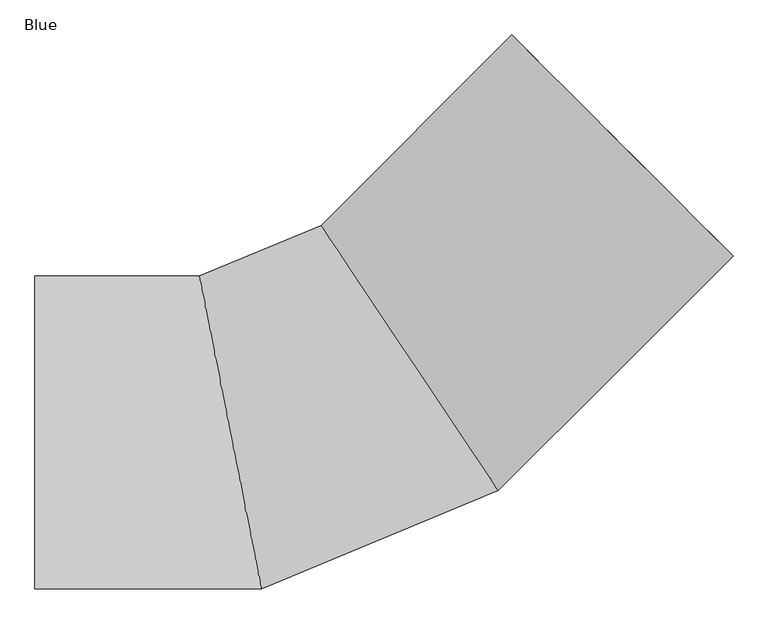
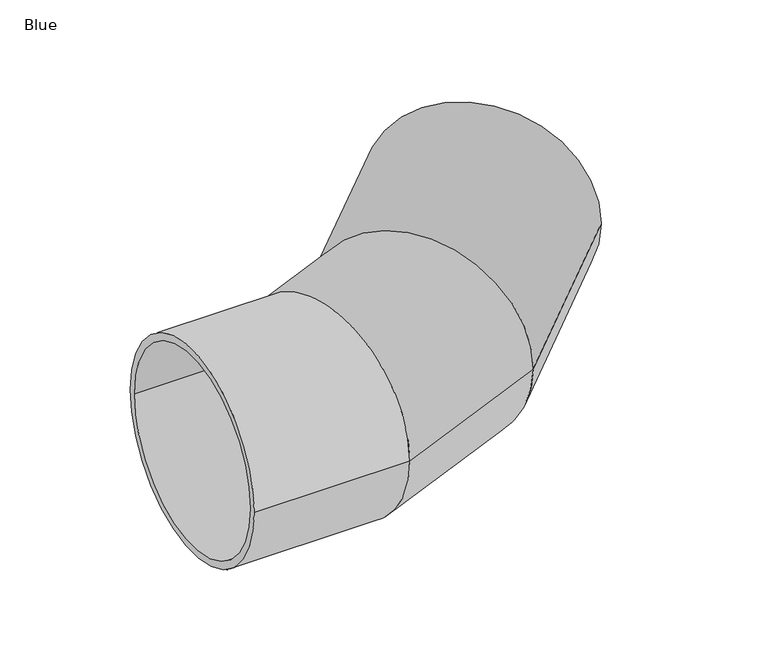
"""IFC4 building model written with IfcOpenShell, lengths in millimetres: pipe fitting geometry, AWADUKT PP SN10 SBend : Blue."""

from ifc_helpers import new_model, si_unit, frame, origin, place, context, project, spatial, polyline, circle_curve, ellipse_curve, source, transform, mapped, element, save
from ifc_brep_helpers import plane_surface, cylinder_surface, revolved_surface, advanced_brep


def blue_0398ec3c(model_context):
    return source(origin(), model_context, "Body", "AdvancedBrep", [
        advanced_brep(
        [(281.4284989, 634.9818895, 0.0), (634.9818895, 281.4284989, 0.0), (293.5200249, 622.8903635, 0.0), (622.8903635, 293.5200249, 0.0), (-13.2953884, 316.0749503, 0.0), (250.5591165, -78.8112222, 0.0), (-22.9817603, 330.5716303, 0.0), (260.2454884, -93.3079022, 0.0), (-214.0974814, 232.9, 0.0), (-121.4441007, -232.9, 0.0), (-217.4988829, 250.0, 0.0), (-118.0426992, -250.0, 0.0), (-480.0, 250.0, 0.0), (-480.0, -250.0, 0.0), (-480.0, 232.9, 0.0), (-480.0, -232.9, 0.0)],
        [
            (0, 1, circle_curve(frame((458.2051942, 458.2051942, 0.0), z_axis=(0.7071067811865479, 0.7071067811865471, 0.0), x_axis=(0.7071067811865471, -0.7071067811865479, 0.0)), 250.0)),
            (1, 0, circle_curve(frame((458.2051942, 458.2051942, 0.0), z_axis=(0.7071067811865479, 0.7071067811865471, 0.0), x_axis=(0.7071067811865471, -0.7071067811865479, 0.0)), 250.0)),
            (2, 3, circle_curve(frame((458.2051942, 458.2051942, 0.0), z_axis=(-0.7071067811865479, -0.7071067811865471, 0.0), x_axis=(0.7071067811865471, -0.7071067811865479, 0.0)), 232.9)),
            (3, 2, circle_curve(frame((458.2051942, 458.2051942, 0.0), z_axis=(-0.7071067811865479, -0.7071067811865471, 0.0), x_axis=(0.7071067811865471, -0.7071067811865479, 0.0)), 232.9)),
            (2, 4),
            (4, 5, ellipse_curve(frame((118.631864, 118.631864, 0.0), z_axis=(-0.8314696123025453, -0.5555702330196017, 0.0), x_axis=(0.5555702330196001, -0.8314696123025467, 0.0)), 237.4627807, 232.9)),
            (5, 3),
            (5, 4, ellipse_curve(frame((118.631864, 118.631864, 0.0), z_axis=(-0.8314696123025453, -0.5555702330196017, 0.0), x_axis=(0.5555702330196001, -0.8314696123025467, 0.0)), 237.4627807, 232.9)),
            (0, 6),
            (6, 7, ellipse_curve(frame((118.631864, 118.631864, 0.0), z_axis=(0.8314696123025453, 0.5555702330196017, 0.0), x_axis=(-0.5555702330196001, 0.8314696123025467, 0.0)), 254.8977896, 250.0)),
            (7, 1),
            (7, 6, ellipse_curve(frame((118.631864, 118.631864, 0.0), z_axis=(0.8314696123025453, 0.5555702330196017, 0.0), x_axis=(-0.5555702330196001, 0.8314696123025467, 0.0)), 254.8977896, 250.0)),
            (4, 8),
            (8, 9, ellipse_curve(frame((-167.770791, 0.0, 0.0), z_axis=(-0.9807852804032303, -0.19509032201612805, 0.0), x_axis=(0.19509032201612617, -0.9807852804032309, 0.0)), 237.4627807, 232.9)),
            (9, 5),
            (9, 8, ellipse_curve(frame((-167.770791, 0.0, 0.0), z_axis=(-0.9807852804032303, -0.19509032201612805, 0.0), x_axis=(0.19509032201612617, -0.9807852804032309, 0.0)), 237.4627807, 232.9)),
            (6, 10),
            (10, 11, ellipse_curve(frame((-167.770791, 0.0, 0.0), z_axis=(0.9807852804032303, 0.19509032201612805, 0.0), x_axis=(-0.19509032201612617, 0.9807852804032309, 0.0)), 254.8977896, 250.0)),
            (11, 7),
            (11, 10, ellipse_curve(frame((-167.770791, 0.0, 0.0), z_axis=(0.9807852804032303, 0.19509032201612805, 0.0), x_axis=(-0.19509032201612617, 0.9807852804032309, 0.0)), 254.8977896, 250.0)),
            (12, 13, circle_curve(frame((-480.0, 0.0, 0.0), z_axis=(-1.0, 0.0, 0.0), x_axis=(0.0, -1.0, 0.0)), 250.0)),
            (13, 12, circle_curve(frame((-480.0, 0.0, 0.0), z_axis=(-1.0, 0.0, 0.0), x_axis=(0.0, -1.0, 0.0)), 250.0)),
            (14, 15, circle_curve(frame((-480.0, 0.0, 0.0), z_axis=(1.0, 0.0, 0.0), x_axis=(0.0, -1.0, 0.0)), 232.9)),
            (15, 14, circle_curve(frame((-480.0, 0.0, 0.0), z_axis=(1.0, 0.0, 0.0), x_axis=(0.0, -1.0, 0.0)), 232.9)),
            (8, 14),
            (15, 9),
            (10, 12),
            (13, 11),
        ],
        [
            plane_surface(frame((458.2051942, 458.2051942, 0.0), z_axis=(0.7071067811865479, 0.7071067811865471, 0.0), x_axis=(0.0, 0.0, 1.0))),
            revolved_surface(polyline([(250.55911643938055, -78.8112222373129, 0.0), (622.890363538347, 293.5200248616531, 0.0)]), (458.2051942, 458.2051942, 0.0), (-0.7071067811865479, -0.7071067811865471, 0.0)),
            cylinder_surface(frame((458.2051942, 458.2051942, 0.0), z_axis=(0.7071067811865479, 0.7071067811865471, 0.0), x_axis=(0.7071067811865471, -0.7071067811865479, 0.0)), 250.0),
            revolved_surface(polyline([(-121.4441006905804, -232.90000002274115, 0.0), (250.55911650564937, -78.81122221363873, 0.0)]), (118.631864, 118.631864, 0.0), (-0.923879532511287, -0.3826834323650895, 0.0)),
            cylinder_surface(frame((118.631864, 118.631864, 0.0), z_axis=(0.923879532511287, 0.3826834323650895, 0.0), x_axis=(0.3826834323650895, -0.923879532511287, 0.0)), 250.0),
            plane_surface(frame((-480.0, 0.0, 0.0), z_axis=(-1.0, 0.0, 0.0), x_axis=(0.0, 0.0, 1.0))),
            revolved_surface(polyline([(-480.0, -232.9, 0.0), (-121.44410064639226, -232.9, 0.0)]), (-167.770791, 0.0, 0.0), (-1.0, 0.0, 0.0)),
            cylinder_surface(frame((-167.770791, 0.0, 0.0), z_axis=(1.0, 0.0, 0.0), x_axis=(0.0, -1.0, 0.0)), 250.0),
        ],
        [
            (0, [[1, 2], [3, 4]]),
            (1, [[-3, 5, 6, 7]]),
            (1, [[-4, -7, 8, -5]]),
            (2, [[-1, 9, 10, 11]]),
            (2, [[-2, -11, 12, -9]]),
            (3, [[-6, 13, 14, 15]]),
            (3, [[-8, -15, 16, -13]]),
            (4, [[-10, 17, 18, 19]]),
            (4, [[-12, -19, 20, -17]]),
            (5, [[21, 22], [23, 24]]),
            (6, [[-14, 25, -24, 26]]),
            (6, [[-16, -26, -23, -25]]),
            (7, [[-18, 27, -22, 28]]),
            (7, [[-20, -28, -21, -27]]),
        ],
    ),
    ])


if __name__ == "__main__":
    model = new_model("IFC4")
    model_context = context("Model", 3, world=origin())
    ifc_project = project(units=[si_unit("LENGTHUNIT", "METRE", prefix="MILLI")], contexts=[model_context])
    site = spatial("IfcSite", under=ifc_project)
    building = spatial("IfcBuilding", under=site)
    placement = place(None, origin())
    blue_shape = blue_0398ec3c(model_context)
    element("IfcPipeFitting", 1, ObjectType="AWADUKT PP SN10 SBend : Blue", at=placement, inside=building, context=model_context, shape_type="MappedRepresentation", body=[
        mapped(blue_shape, transform((0.0, 0.0, 0.0), x_axis=(1.0, 0.0, 0.0), y_axis=(0.0, 1.0, 0.0), z_axis=(0.0, 0.0, 1.0))),
    ])
    save(model, "model.ifc")
